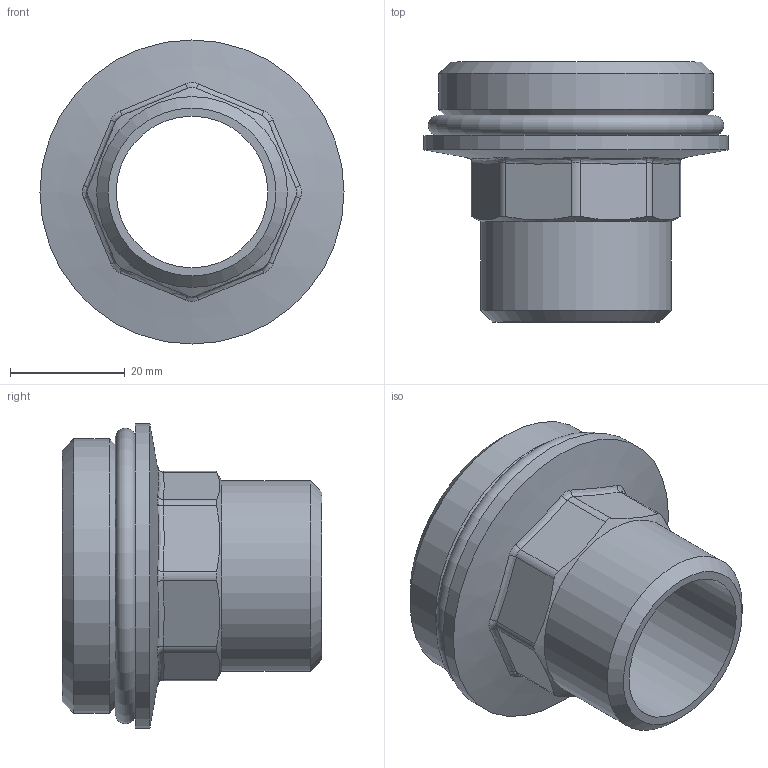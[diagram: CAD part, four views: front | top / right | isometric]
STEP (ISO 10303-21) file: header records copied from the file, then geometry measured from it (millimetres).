
FILE_DESCRIPTION(('STEP AP242'), '1');
FILE_NAME('覆.302634.095.000 捘 - VTr.601.N.0806', '', ('UNSPECIFIED'), ('UNSPECIFIED'), 'C3D Converter', 'C3D Toolkit', '');
FILE_SCHEMA(('AP242_MANAGED_MODEL_BASED_3D_ENGINEERING_MIM_LF { 1 0 10303 442 1 1 4 }'));
Length unit declared in the file: millimetre
Products named in the file (3): ВР.302634.095.000 СБ; ВР.753157.028
Assembly tree (2 placements, depth 2):
  ВР.302634.095.000 СБ
    ВР.753157.028
    (unnamed)
Bounding box: 53 x 45.3 x 53 mm (x, y, z)
Volume: 22463.6 mm3; surface area: 14259 mm2
Topology: 2 solids, 2 shells, 51 faces, 127 edges, 81 vertices
Faces by surface type: bspline 16, cylinder 14, plane 11, cone 7, torus 3
Full cylindrical faces by diameter (mm): 26.4 x1, 33.249 x1, 39.2 x1, 44.5 x1, 47.803 x1, 53 x1
Entity records: 3509 total; most frequent: CARTESIAN_POINT 2374, ORIENTED_EDGE 200, DIRECTION 144, EDGE_CURVE 100, B_SPLINE_CURVE_WITH_KNOTS 68, EDGE_LOOP 68, VERTEX_POINT 68, AXIS2_PLACEMENT_3D 64
